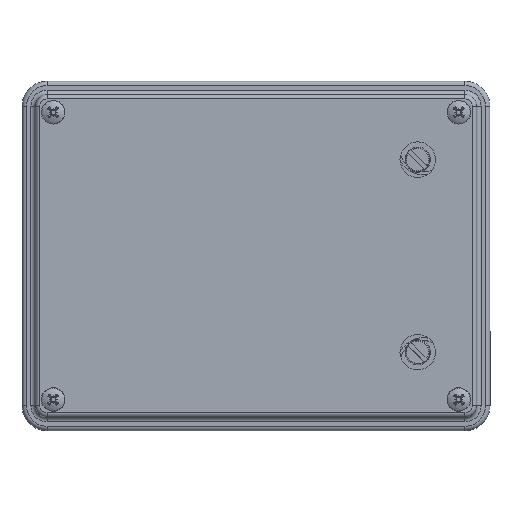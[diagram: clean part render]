
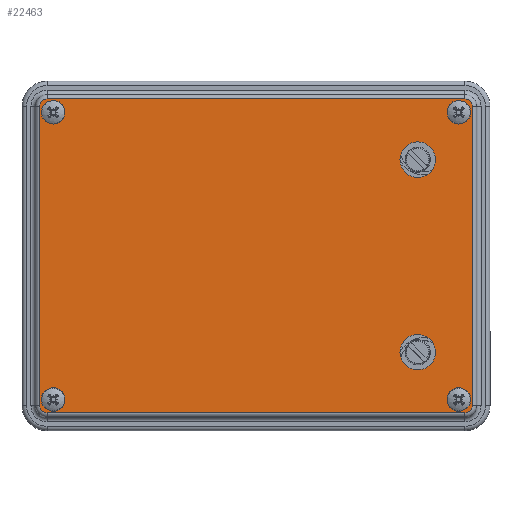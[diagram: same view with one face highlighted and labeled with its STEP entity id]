
A CAD part, top view. The second image highlights one B-rep face of the part: STEP entity #22463.
In plain terms, the highlighted planar face has unit normal (0, 0, 1) as drawn and (0, 0, -1) by its records, which use the part's own axes.
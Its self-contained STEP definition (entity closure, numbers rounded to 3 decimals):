
#768=FACE_BOUND('',#3577,.T.);
#769=FACE_BOUND('',#3578,.T.);
#770=FACE_BOUND('',#3579,.T.);
#771=FACE_BOUND('',#3580,.T.);
#772=FACE_BOUND('',#3581,.T.);
#773=FACE_BOUND('',#3582,.T.);
#1063=PLANE('',#24505);
#2131=FACE_OUTER_BOUND('',#3576,.T.);
#3576=EDGE_LOOP('',(#17754,#17755,#17756,#17757,#17758,#17759,#17760,#17761));
#3577=EDGE_LOOP('',(#17762));
#3578=EDGE_LOOP('',(#17763));
#3579=EDGE_LOOP('',(#17764));
#3580=EDGE_LOOP('',(#17765));
#3581=EDGE_LOOP('',(#17766));
#3582=EDGE_LOOP('',(#17767));
#5110=LINE('',#39621,#7001);
#5112=LINE('',#39633,#7003);
#5114=LINE('',#39645,#7005);
#5116=LINE('',#39654,#7007);
#7001=VECTOR('',#29308,101.);
#7003=VECTOR('',#29322,141.);
#7005=VECTOR('',#29336,101.);
#7007=VECTOR('',#29348,141.);
#8421=CIRCLE('',#24281,6.);
#8423=CIRCLE('',#24284,6.);
#8449=CIRCLE('',#24328,4.);
#8451=CIRCLE('',#24332,4.);
#8453=CIRCLE('',#24336,4.);
#8455=CIRCLE('',#24340,4.);
#8531=CIRCLE('',#24477,2.5);
#8537=CIRCLE('',#24485,2.5);
#8541=CIRCLE('',#24491,2.5);
#8545=CIRCLE('',#24497,2.5);
#9924=VERTEX_POINT('',#39206);
#9926=VERTEX_POINT('',#39211);
#9964=VERTEX_POINT('',#39313);
#9966=VERTEX_POINT('',#39319);
#9968=VERTEX_POINT('',#39325);
#9970=VERTEX_POINT('',#39331);
#10053=VERTEX_POINT('',#39609);
#10054=VERTEX_POINT('',#39611);
#10056=VERTEX_POINT('',#39617);
#10058=VERTEX_POINT('',#39623);
#10060=VERTEX_POINT('',#39629);
#10062=VERTEX_POINT('',#39635);
#10064=VERTEX_POINT('',#39641);
#10066=VERTEX_POINT('',#39647);
#12613=EDGE_CURVE('',#9924,#9924,#8421,.T.);
#12615=EDGE_CURVE('',#9926,#9926,#8423,.T.);
#12661=EDGE_CURVE('',#9964,#9964,#8449,.T.);
#12663=EDGE_CURVE('',#9966,#9966,#8451,.T.);
#12665=EDGE_CURVE('',#9968,#9968,#8453,.T.);
#12667=EDGE_CURVE('',#9970,#9970,#8455,.T.);
#12802=EDGE_CURVE('',#10053,#10054,#8531,.T.);
#12807=EDGE_CURVE('',#10054,#10056,#5110,.T.);
#12810=EDGE_CURVE('',#10056,#10058,#8537,.T.);
#12813=EDGE_CURVE('',#10058,#10060,#5112,.T.);
#12816=EDGE_CURVE('',#10060,#10062,#8541,.T.);
#12819=EDGE_CURVE('',#10062,#10064,#5114,.T.);
#12822=EDGE_CURVE('',#10064,#10066,#8545,.T.);
#12824=EDGE_CURVE('',#10066,#10053,#5116,.T.);
#17754=ORIENTED_EDGE('',*,*,#12802,.F.);
#17755=ORIENTED_EDGE('',*,*,#12824,.F.);
#17756=ORIENTED_EDGE('',*,*,#12822,.F.);
#17757=ORIENTED_EDGE('',*,*,#12819,.F.);
#17758=ORIENTED_EDGE('',*,*,#12816,.F.);
#17759=ORIENTED_EDGE('',*,*,#12813,.F.);
#17760=ORIENTED_EDGE('',*,*,#12810,.F.);
#17761=ORIENTED_EDGE('',*,*,#12807,.F.);
#17762=ORIENTED_EDGE('',*,*,#12613,.T.);
#17763=ORIENTED_EDGE('',*,*,#12615,.T.);
#17764=ORIENTED_EDGE('',*,*,#12661,.T.);
#17765=ORIENTED_EDGE('',*,*,#12663,.T.);
#17766=ORIENTED_EDGE('',*,*,#12665,.T.);
#17767=ORIENTED_EDGE('',*,*,#12667,.T.);
#22463=ADVANCED_FACE('',(#2131,#768,#769,#770,#771,#772,#773),#1063,.F.);
#24281=AXIS2_PLACEMENT_3D('',#39207,#28826,#28827);
#24284=AXIS2_PLACEMENT_3D('',#39212,#28832,#28833);
#24328=AXIS2_PLACEMENT_3D('',#39314,#28940,#28941);
#24332=AXIS2_PLACEMENT_3D('',#39320,#28948,#28949);
#24336=AXIS2_PLACEMENT_3D('',#39326,#28956,#28957);
#24340=AXIS2_PLACEMENT_3D('',#39332,#28964,#28965);
#24477=AXIS2_PLACEMENT_3D('',#39612,#29297,#29298);
#24485=AXIS2_PLACEMENT_3D('',#39627,#29315,#29316);
#24491=AXIS2_PLACEMENT_3D('',#39639,#29329,#29330);
#24497=AXIS2_PLACEMENT_3D('',#39651,#29343,#29344);
#24505=AXIS2_PLACEMENT_3D('',#39673,#29368,#29369);
#28826=DIRECTION('center_axis',(0.,0.,1.));
#28827=DIRECTION('ref_axis',(1.,0.,0.));
#28832=DIRECTION('center_axis',(0.,0.,1.));
#28833=DIRECTION('ref_axis',(1.,0.,0.));
#28940=DIRECTION('center_axis',(0.,0.,1.));
#28941=DIRECTION('ref_axis',(1.,0.,0.));
#28948=DIRECTION('center_axis',(0.,0.,1.));
#28949=DIRECTION('ref_axis',(1.,0.,0.));
#28956=DIRECTION('center_axis',(0.,0.,1.));
#28957=DIRECTION('ref_axis',(1.,0.,0.));
#28964=DIRECTION('center_axis',(0.,0.,1.));
#28965=DIRECTION('ref_axis',(1.,0.,0.));
#29297=DIRECTION('center_axis',(0.,0.,1.));
#29298=DIRECTION('ref_axis',(-0.707,0.707,0.));
#29308=DIRECTION('',(0.,-1.,0.));
#29315=DIRECTION('center_axis',(0.,0.,1.));
#29316=DIRECTION('ref_axis',(-0.707,-0.707,0.));
#29322=DIRECTION('',(1.,0.,0.));
#29329=DIRECTION('center_axis',(0.,0.,1.));
#29330=DIRECTION('ref_axis',(0.707,-0.707,0.));
#29336=DIRECTION('',(0.,1.,0.));
#29343=DIRECTION('center_axis',(0.,0.,1.));
#29344=DIRECTION('ref_axis',(0.707,0.707,0.));
#29348=DIRECTION('',(-1.,0.,0.));
#29368=DIRECTION('center_axis',(0.,0.,1.));
#29369=DIRECTION('ref_axis',(1.,0.,0.));
#39206=CARTESIAN_POINT('',(123.1,22.,0.));
#39207=CARTESIAN_POINT('Origin',(129.1,22.,0.));
#39211=CARTESIAN_POINT('',(123.1,87.,0.));
#39212=CARTESIAN_POINT('Origin',(129.1,87.,0.));
#39313=CARTESIAN_POINT('',(2.,103.,0.));
#39314=CARTESIAN_POINT('Origin',(6.,103.,0.));
#39319=CARTESIAN_POINT('',(139.,6.,0.));
#39320=CARTESIAN_POINT('Origin',(143.,6.,0.));
#39325=CARTESIAN_POINT('',(2.,6.,0.));
#39326=CARTESIAN_POINT('Origin',(6.,6.,0.));
#39331=CARTESIAN_POINT('',(139.,103.,0.));
#39332=CARTESIAN_POINT('Origin',(143.,103.,0.));
#39609=CARTESIAN_POINT('',(4.,107.5,0.));
#39611=CARTESIAN_POINT('',(1.5,105.,0.));
#39612=CARTESIAN_POINT('Origin',(4.,105.,0.));
#39617=CARTESIAN_POINT('',(1.5,4.,0.));
#39621=CARTESIAN_POINT('',(1.5,81.75,0.));
#39623=CARTESIAN_POINT('',(4.,1.5,0.));
#39627=CARTESIAN_POINT('Origin',(4.,4.,0.));
#39629=CARTESIAN_POINT('',(145.,1.5,0.));
#39633=CARTESIAN_POINT('',(37.25,1.5,0.));
#39635=CARTESIAN_POINT('',(147.5,4.,0.));
#39639=CARTESIAN_POINT('Origin',(145.,4.,0.));
#39641=CARTESIAN_POINT('',(147.5,105.,0.));
#39645=CARTESIAN_POINT('',(147.5,27.25,0.));
#39647=CARTESIAN_POINT('',(145.,107.5,0.));
#39651=CARTESIAN_POINT('Origin',(145.,105.,0.));
#39654=CARTESIAN_POINT('',(111.75,107.5,0.));
#39673=CARTESIAN_POINT('Origin',(74.5,54.5,0.));
